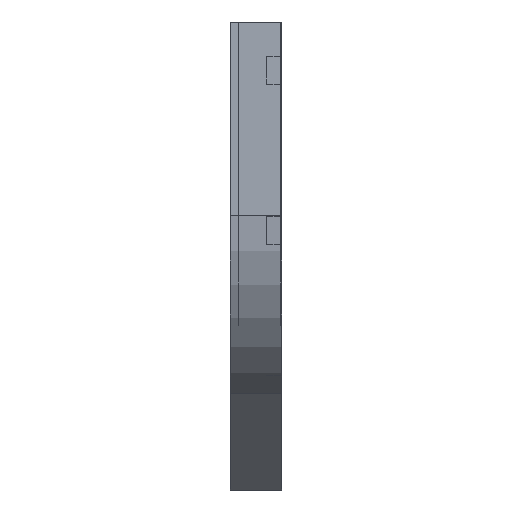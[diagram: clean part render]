
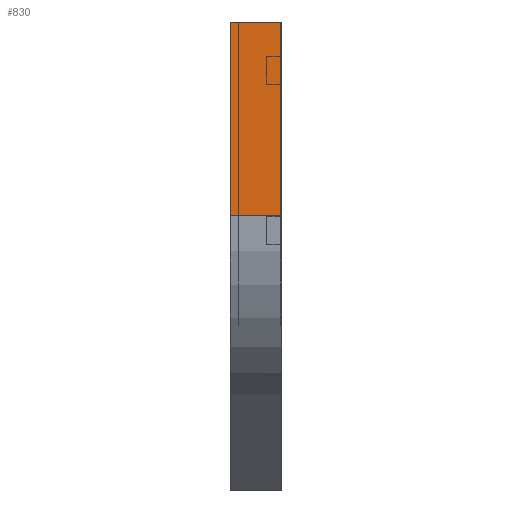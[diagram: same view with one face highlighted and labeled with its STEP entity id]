
A CAD part, left-side view. The second image highlights one B-rep face of the part: STEP entity #830.
In plain terms, the highlighted planar face has unit normal (-1, 0, 0).
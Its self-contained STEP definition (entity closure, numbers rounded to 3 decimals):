
#80 = CARTESIAN_POINT ( 'NONE',  ( 0., 0., -280.94 ) ) ;
#139 = ORIENTED_EDGE ( 'NONE', *, *, #1695, .T. ) ;
#144 = DIRECTION ( 'NONE',  ( 0., -1., 0. ) ) ;
#159 = EDGE_LOOP ( 'NONE', ( #1832, #529, #276, #139 ) ) ;
#276 = ORIENTED_EDGE ( 'NONE', *, *, #1441, .T. ) ;
#391 = DIRECTION ( 'NONE',  ( 1., 0., 0. ) ) ;
#409 = VERTEX_POINT ( 'NONE', #1820 ) ;
#511 = FACE_OUTER_BOUND ( 'NONE', #159, .T. ) ;
#529 = ORIENTED_EDGE ( 'NONE', *, *, #1777, .F. ) ;
#548 = DIRECTION ( 'NONE',  ( 0., 0., -1. ) ) ;
#593 = EDGE_CURVE ( 'NONE', #986, #850, #1146, .T. ) ;
#672 = DIRECTION ( 'NONE',  ( 0., 0., -1. ) ) ;
#790 = CARTESIAN_POINT ( 'NONE',  ( 0., 0., -280.94 ) ) ;
#815 = CARTESIAN_POINT ( 'NONE',  ( 0., 0., 0. ) ) ;
#830 = ADVANCED_FACE ( 'NONE', ( #511 ), #1254, .F. ) ;
#850 = VERTEX_POINT ( 'NONE', #790 ) ;
#880 = CARTESIAN_POINT ( 'NONE',  ( 0., 75., 0. ) ) ;
#898 = DIRECTION ( 'NONE',  ( 0., 0., -1. ) ) ;
#900 = VERTEX_POINT ( 'NONE', #1397 ) ;
#986 = VERTEX_POINT ( 'NONE', #1273 ) ;
#1031 = LINE ( 'NONE', #880, #1194 ) ;
#1087 = CARTESIAN_POINT ( 'NONE',  ( 0., 0., 0. ) ) ;
#1146 = LINE ( 'NONE', #1306, #1836 ) ;
#1194 = VECTOR ( 'NONE', #898, 1000. ) ;
#1225 = DIRECTION ( 'NONE',  ( 0., -1., 0. ) ) ;
#1235 = LINE ( 'NONE', #80, #1744 ) ;
#1250 = AXIS2_PLACEMENT_3D ( 'NONE', #1087, #391, #672 ) ;
#1254 = PLANE ( 'NONE',  #1250 ) ;
#1273 = CARTESIAN_POINT ( 'NONE',  ( 0., 0., 0. ) ) ;
#1306 = CARTESIAN_POINT ( 'NONE',  ( 0., 0., 0. ) ) ;
#1397 = CARTESIAN_POINT ( 'NONE',  ( 0., 75., -280.94 ) ) ;
#1441 = EDGE_CURVE ( 'NONE', #409, #900, #1031, .T. ) ;
#1551 = VECTOR ( 'NONE', #144, 1000. ) ;
#1564 = LINE ( 'NONE', #815, #1551 ) ;
#1695 = EDGE_CURVE ( 'NONE', #900, #850, #1235, .T. ) ;
#1744 = VECTOR ( 'NONE', #1225, 1000. ) ;
#1777 = EDGE_CURVE ( 'NONE', #409, #986, #1564, .T. ) ;
#1820 = CARTESIAN_POINT ( 'NONE',  ( 0., 75., 0. ) ) ;
#1832 = ORIENTED_EDGE ( 'NONE', *, *, #593, .F. ) ;
#1836 = VECTOR ( 'NONE', #548, 1000. ) ;
